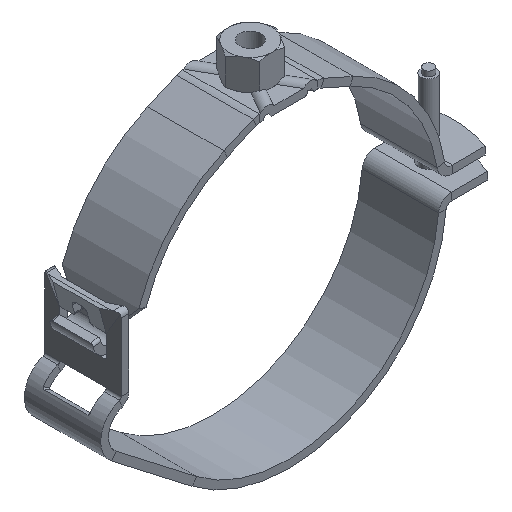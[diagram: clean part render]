
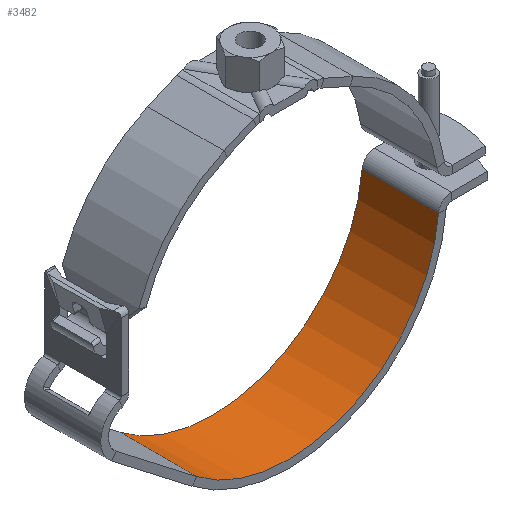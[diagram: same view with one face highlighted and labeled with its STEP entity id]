
A CAD part, isometric view. The second image highlights one B-rep face of the part: STEP entity #3482.
In plain terms, the highlighted cylindrical face has radius 59 mm (diameter 118 mm), a partial arc.
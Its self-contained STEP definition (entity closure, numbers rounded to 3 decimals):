
#164=CIRCLE('',#3794,59.);
#165=CIRCLE('',#3795,59.);
#262=CYLINDRICAL_SURFACE('',#3793,59.);
#372=FACE_OUTER_BOUND('',#586,.T.);
#586=EDGE_LOOP('',(#2464,#2465,#2466,#2467));
#852=LINE('',#5449,#1171);
#861=LINE('',#5556,#1180);
#1171=VECTOR('',#4303,30.);
#1180=VECTOR('',#4324,30.);
#1497=VERTEX_POINT('',#5447);
#1498=VERTEX_POINT('',#5448);
#1503=VERTEX_POINT('',#5554);
#1504=VERTEX_POINT('',#5555);
#1854=EDGE_CURVE('',#1497,#1498,#852,.T.);
#1868=EDGE_CURVE('',#1503,#1504,#861,.T.);
#1869=EDGE_CURVE('',#1498,#1504,#164,.T.);
#1870=EDGE_CURVE('',#1497,#1503,#165,.T.);
#2464=ORIENTED_EDGE('',*,*,#1868,.T.);
#2465=ORIENTED_EDGE('',*,*,#1869,.F.);
#2466=ORIENTED_EDGE('',*,*,#1854,.F.);
#2467=ORIENTED_EDGE('',*,*,#1870,.T.);
#3482=ADVANCED_FACE('',(#372),#262,.F.);
#3793=AXIS2_PLACEMENT_3D('',#5553,#4322,#4323);
#3794=AXIS2_PLACEMENT_3D('',#5557,#4325,#4326);
#3795=AXIS2_PLACEMENT_3D('',#5558,#4327,#4328);
#4303=DIRECTION('',(-1.,0.,0.));
#4322=DIRECTION('center_axis',(1.,0.,0.));
#4323=DIRECTION('ref_axis',(0.,1.,0.));
#4324=DIRECTION('',(-1.,0.,0.));
#4325=DIRECTION('center_axis',(1.,0.,0.));
#4326=DIRECTION('ref_axis',(0.,-0.611,-0.791));
#4327=DIRECTION('center_axis',(1.,0.,0.));
#4328=DIRECTION('ref_axis',(0.,-0.611,-0.791));
#5447=CARTESIAN_POINT('',(30.,-36.077,-46.684));
#5448=CARTESIAN_POINT('',(0.,-36.077,-46.684));
#5449=CARTESIAN_POINT('',(30.,-36.077,-46.684));
#5553=CARTESIAN_POINT('Origin',(15.511,0.,0.));
#5554=CARTESIAN_POINT('',(30.,58.82,-4.609));
#5555=CARTESIAN_POINT('',(0.,58.82,-4.609));
#5556=CARTESIAN_POINT('',(30.,58.82,-4.609));
#5557=CARTESIAN_POINT('Origin',(0.,0.,0.));
#5558=CARTESIAN_POINT('Origin',(30.,0.,0.));
